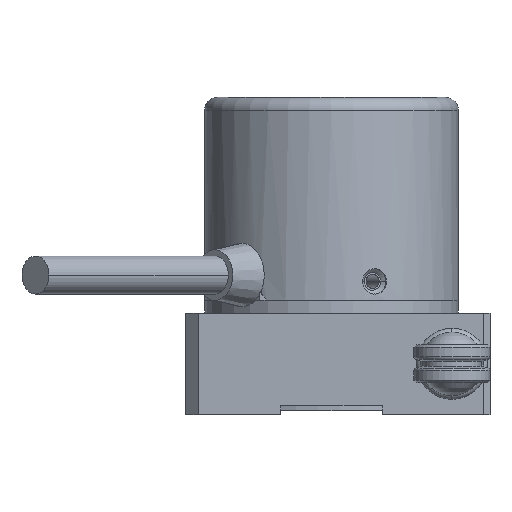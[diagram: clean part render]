
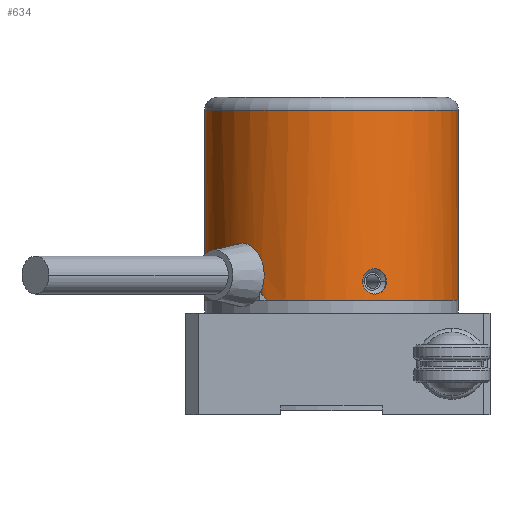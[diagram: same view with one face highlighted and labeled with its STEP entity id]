
A CAD part, front view. The second image highlights one B-rep face of the part: STEP entity #634.
In plain terms, the highlighted cylindrical face has radius 10 mm (diameter 20 mm), a partial arc.
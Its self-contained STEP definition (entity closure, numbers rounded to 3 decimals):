
#634=ADVANCED_FACE('',(#1033,#1034),#1035,.T.);
#1033=FACE_BOUND('',#1581,.T.);
#1034=FACE_OUTER_BOUND('',#1582,.T.);
#1035=CYLINDRICAL_SURFACE('',#1583,10.0);
#1581=EDGE_LOOP('',(#2827,#2828));
#1582=EDGE_LOOP('',(#2829,#2830,#2831,#2832,#2833,#2834,#2835,#2836,#2837,#2838));
#1583=AXIS2_PLACEMENT_3D('',#2839,#2840,#2841);
#2827=ORIENTED_EDGE('',*,*,#4095,.T.);
#2828=ORIENTED_EDGE('',*,*,#4096,.T.);
#2829=ORIENTED_EDGE('',*,*,#4097,.F.);
#2830=ORIENTED_EDGE('',*,*,#4098,.T.);
#2831=ORIENTED_EDGE('',*,*,#4099,.T.);
#2832=ORIENTED_EDGE('',*,*,#4100,.F.);
#2833=ORIENTED_EDGE('',*,*,#4101,.F.);
#2834=ORIENTED_EDGE('',*,*,#4102,.F.);
#2835=ORIENTED_EDGE('',*,*,#4103,.T.);
#2836=ORIENTED_EDGE('',*,*,#4104,.T.);
#2837=ORIENTED_EDGE('',*,*,#4105,.F.);
#2838=ORIENTED_EDGE('',*,*,#4106,.T.);
#2839=CARTESIAN_POINT('',(0.0,0.0,25.0));
#2840=DIRECTION('',(0.0,-0.0,1.0));
#2841=DIRECTION('',(-1.0,0.0,0.0));
#4095=EDGE_CURVE('',#4869,#4870,#4871,.T.);
#4096=EDGE_CURVE('',#4870,#4869,#4872,.T.);
#4097=EDGE_CURVE('',#4873,#4856,#4874,.T.);
#4098=EDGE_CURVE('',#4873,#4875,#4876,.T.);
#4099=EDGE_CURVE('',#4875,#4877,#4878,.F.);
#4100=EDGE_CURVE('',#4879,#4877,#4880,.T.);
#4101=EDGE_CURVE('',#4881,#4879,#4882,.T.);
#4102=EDGE_CURVE('',#4883,#4881,#4884,.F.);
#4103=EDGE_CURVE('',#4883,#4885,#4886,.F.);
#4104=EDGE_CURVE('',#4885,#4887,#4888,.T.);
#4105=EDGE_CURVE('',#4853,#4887,#4889,.T.);
#4106=EDGE_CURVE('',#4853,#4856,#4890,.F.);
#4853=VERTEX_POINT('',#6148);
#4856=VERTEX_POINT('',#6151);
#4869=VERTEX_POINT('',#6164);
#4870=VERTEX_POINT('',#6165);
#4871=B_SPLINE_CURVE_WITH_KNOTS('',3,(#6166,#6167,#6168,#6169,#6170,#6171,#6172,#6173,#6174,#6175,#6176,#6177,#6178,#6179,#6180,#6181,#6182,#6183,#6184,#6185),.UNSPECIFIED.,.F.,.F.,(4,2,2,2,2,2,2,2,2,4),(0.0,0.,0.001,0.001,0.002,0.002,0.002,0.003,0.003,0.003),.UNSPECIFIED.);
#4872=B_SPLINE_CURVE_WITH_KNOTS('',3,(#6186,#6187,#6188,#6189,#6190,#6191,#6192,#6193,#6194,#6195,#6196,#6197,#6198,#6199,#6200,#6201),.UNSPECIFIED.,.F.,.F.,(4,2,2,2,2,2,2,4),(0.003,0.004,0.004,0.004,0.005,0.005,0.005,0.006),.UNSPECIFIED.);
#4873=VERTEX_POINT('',#6202);
#4874=LINE('',#6203,#6204);
#4875=VERTEX_POINT('',#6205);
#4876=CIRCLE('',#6206,10.0);
#4877=VERTEX_POINT('',#6207);
#4878=ELLIPSE('',#6208,14.142,10.0);
#4879=VERTEX_POINT('',#6209);
#4880=LINE('',#6210,#6211);
#4881=VERTEX_POINT('',#6212);
#4882=B_SPLINE_CURVE_WITH_KNOTS('',3,(#6213,#6214,#6215,#6216,#6217,#6218,#6219,#6220,#6221,#6222,#6223,#6224,#6225,#6226,#6227,#6228,#6229,#6230,#6231,#6232,#6233,#6234,#6235,#6236,#6237,#6238,#6239,#6240),.UNSPECIFIED.,.F.,.F.,(4,2,2,2,2,2,2,2,2,2,2,2,2,4),(0.0,0.,0.001,0.001,0.002,0.002,0.003,0.004,0.004,0.005,0.005,0.005,0.006,0.006),.UNSPECIFIED.);
#4883=VERTEX_POINT('',#6241);
#4884=LINE('',#6242,#6243);
#4885=VERTEX_POINT('',#6244);
#4886=ELLIPSE('',#6245,14.142,10.0);
#4887=VERTEX_POINT('',#6246);
#4888=CIRCLE('',#6247,10.0);
#4889=LINE('',#6248,#6249);
#4890=CIRCLE('',#6250,10.0);
#6148=CARTESIAN_POINT('',(10.0,0.0,24.0));
#6151=CARTESIAN_POINT('',(-10.0,0.,24.0));
#6164=CARTESIAN_POINT('',(2.463,-9.692,10.5));
#6165=CARTESIAN_POINT('',(4.343,-9.008,10.5));
#6166=CARTESIAN_POINT('',(2.463,-9.692,10.5));
#6167=CARTESIAN_POINT('',(2.463,-9.692,10.632));
#6168=CARTESIAN_POINT('',(2.489,-9.685,10.762));
#6169=CARTESIAN_POINT('',(2.586,-9.66,11.004));
#6170=CARTESIAN_POINT('',(2.658,-9.641,11.115));
#6171=CARTESIAN_POINT('',(2.836,-9.59,11.299));
#6172=CARTESIAN_POINT('',(2.943,-9.558,11.374));
#6173=CARTESIAN_POINT('',(3.172,-9.484,11.474));
#6174=CARTESIAN_POINT('',(3.297,-9.442,11.5));
#6175=CARTESIAN_POINT('',(3.542,-9.352,11.5));
#6176=CARTESIAN_POINT('',(3.665,-9.305,11.474));
#6177=CARTESIAN_POINT('',(3.889,-9.214,11.374));
#6178=CARTESIAN_POINT('',(3.99,-9.17,11.301));
#6179=CARTESIAN_POINT('',(4.161,-9.094,11.114));
#6180=CARTESIAN_POINT('',(4.228,-9.062,11.004));
#6181=CARTESIAN_POINT('',(4.319,-9.019,10.762));
#6182=CARTESIAN_POINT('',(4.343,-9.008,10.631));
#6183=CARTESIAN_POINT('',(4.343,-9.008,10.5));
#6184=CARTESIAN_POINT('',(4.343,-9.008,10.5));
#6185=CARTESIAN_POINT('',(4.343,-9.008,10.5));
#6186=CARTESIAN_POINT('',(4.343,-9.008,10.5));
#6187=CARTESIAN_POINT('',(4.343,-9.008,10.37));
#6188=CARTESIAN_POINT('',(4.319,-9.019,10.238));
#6189=CARTESIAN_POINT('',(4.229,-9.062,9.997));
#6190=CARTESIAN_POINT('',(4.161,-9.094,9.886));
#6191=CARTESIAN_POINT('',(3.992,-9.169,9.701));
#6192=CARTESIAN_POINT('',(3.891,-9.213,9.627));
#6193=CARTESIAN_POINT('',(3.666,-9.304,9.526));
#6194=CARTESIAN_POINT('',(3.545,-9.351,9.5));
#6195=CARTESIAN_POINT('',(3.297,-9.442,9.5));
#6196=CARTESIAN_POINT('',(3.174,-9.484,9.526));
#6197=CARTESIAN_POINT('',(2.943,-9.558,9.626));
#6198=CARTESIAN_POINT('',(2.837,-9.59,9.7));
#6199=CARTESIAN_POINT('',(2.57,-9.666,9.977));
#6200=CARTESIAN_POINT('',(2.463,-9.692,10.236));
#6201=CARTESIAN_POINT('',(2.463,-9.692,10.5));
#6202=CARTESIAN_POINT('',(-10.0,0.,9.0));
#6203=CARTESIAN_POINT('',(-10.0,0.,16.5));
#6204=VECTOR('',#7492,1.0);
#6205=CARTESIAN_POINT('',(-8.614,-5.079,9.0));
#6206=AXIS2_PLACEMENT_3D('',#7493,#7494,#7495);
#6207=CARTESIAN_POINT('',(-8.342,-5.514,9.5));
#6208=AXIS2_PLACEMENT_3D('',#7496,#7497,#7498);
#6209=CARTESIAN_POINT('',(-8.342,-5.514,11.0));
#6210=CARTESIAN_POINT('',(-8.342,-5.514,25.0));
#6211=VECTOR('',#7499,1000.0);
#6212=CARTESIAN_POINT('',(-5.514,-8.342,11.0));
#6213=CARTESIAN_POINT('',(-5.514,-8.342,11.0));
#6214=CARTESIAN_POINT('',(-5.514,-8.342,11.132));
#6215=CARTESIAN_POINT('',(-5.525,-8.335,11.263));
#6216=CARTESIAN_POINT('',(-5.568,-8.306,11.519));
#6217=CARTESIAN_POINT('',(-5.601,-8.284,11.646));
#6218=CARTESIAN_POINT('',(-5.685,-8.227,11.888));
#6219=CARTESIAN_POINT('',(-5.737,-8.191,12.003));
#6220=CARTESIAN_POINT('',(-5.857,-8.106,12.22));
#6221=CARTESIAN_POINT('',(-5.926,-8.056,12.322));
#6222=CARTESIAN_POINT('',(-6.149,-7.888,12.598));
#6223=CARTESIAN_POINT('',(-6.325,-7.75,12.747));
#6224=CARTESIAN_POINT('',(-6.691,-7.436,12.947));
#6225=CARTESIAN_POINT('',(-6.885,-7.257,13.));
#6226=CARTESIAN_POINT('',(-7.162,-6.98,13.));
#6227=CARTESIAN_POINT('',(-7.255,-6.884,12.987));
#6228=CARTESIAN_POINT('',(-7.429,-6.695,12.936));
#6229=CARTESIAN_POINT('',(-7.512,-6.602,12.898));
#6230=CARTESIAN_POINT('',(-7.75,-6.325,12.748));
#6231=CARTESIAN_POINT('',(-7.887,-6.151,12.601));
#6232=CARTESIAN_POINT('',(-8.056,-5.925,12.322));
#6233=CARTESIAN_POINT('',(-8.105,-5.858,12.221));
#6234=CARTESIAN_POINT('',(-8.19,-5.738,12.005));
#6235=CARTESIAN_POINT('',(-8.227,-5.686,11.888));
#6236=CARTESIAN_POINT('',(-8.284,-5.601,11.647));
#6237=CARTESIAN_POINT('',(-8.306,-5.569,11.522));
#6238=CARTESIAN_POINT('',(-8.335,-5.525,11.265));
#6239=CARTESIAN_POINT('',(-8.342,-5.514,11.132));
#6240=CARTESIAN_POINT('',(-8.342,-5.514,11.0));
#6241=CARTESIAN_POINT('',(-5.514,-8.342,9.5));
#6242=CARTESIAN_POINT('',(-5.514,-8.342,25.0));
#6243=VECTOR('',#7500,1000.0);
#6244=CARTESIAN_POINT('',(-5.079,-8.614,9.0));
#6245=AXIS2_PLACEMENT_3D('',#7501,#7502,#7503);
#6246=CARTESIAN_POINT('',(10.0,0.,9.0));
#6247=AXIS2_PLACEMENT_3D('',#7504,#7505,#7506);
#6248=CARTESIAN_POINT('',(10.0,0.,16.5));
#6249=VECTOR('',#7507,1.0);
#6250=AXIS2_PLACEMENT_3D('',#7508,#7509,#7510);
#7492=DIRECTION('',(0.0,-0.0,1.0));
#7493=CARTESIAN_POINT('',(0.0,0.0,9.0));
#7494=DIRECTION('',(0.0,0.0,1.0));
#7495=DIRECTION('',(1.0,0.0,0.0));
#7496=CARTESIAN_POINT('',(0.0,0.0,11.5));
#7497=DIRECTION('',(0.5,-0.5,-0.707));
#7498=DIRECTION('',(-0.5,0.5,-0.707));
#7499=DIRECTION('',(0.0,0.0,-1.0));
#7500=DIRECTION('',(0.0,0.0,-1.0));
#7501=CARTESIAN_POINT('',(0.0,0.0,11.5));
#7502=DIRECTION('',(-0.5,0.5,-0.707));
#7503=DIRECTION('',(0.5,-0.5,-0.707));
#7504=CARTESIAN_POINT('',(0.0,0.0,9.0));
#7505=DIRECTION('',(0.0,0.0,1.0));
#7506=DIRECTION('',(1.0,0.0,0.0));
#7507=DIRECTION('',(0.0,-0.0,-1.0));
#7508=CARTESIAN_POINT('',(0.0,0.0,24.0));
#7509=DIRECTION('',(0.0,0.0,1.0));
#7510=DIRECTION('',(1.0,0.0,0.0));
